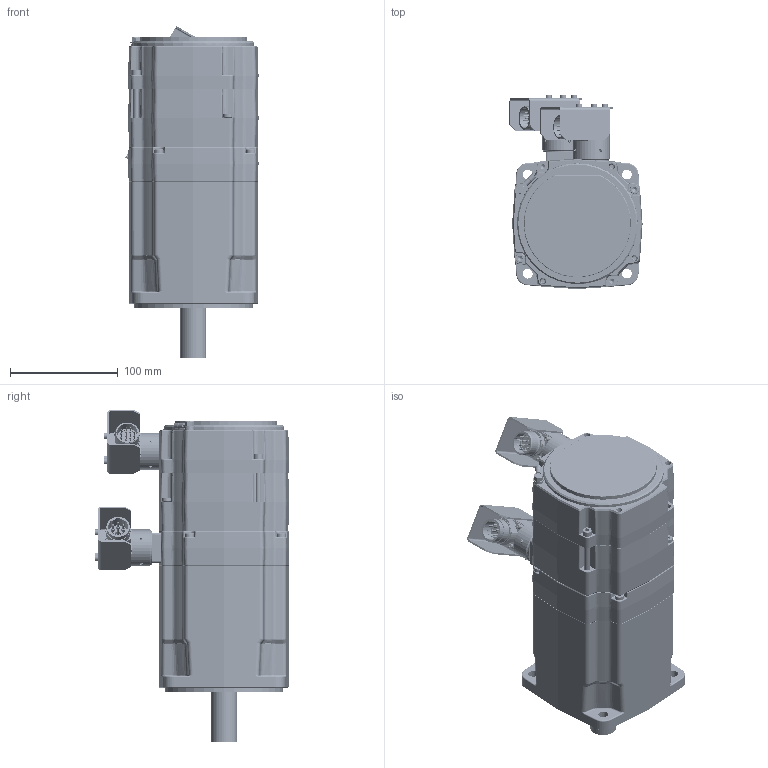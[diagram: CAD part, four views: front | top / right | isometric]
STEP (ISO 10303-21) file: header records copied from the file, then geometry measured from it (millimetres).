
FILE_DESCRIPTION((''),'2;1');
FILE_NAME('EY620EAR7310_ASM','2016-11-14T',('pf73167'),(''),'PRO/ENGINEER BY PARAMETRIC TECHNOLOGY CORPORATION, 2009400','PRO/ENGINEER BY PARAMETRIC TECHNOLOGY CORPORATION, 2009400','');
FILE_SCHEMA(('CONFIG_CONTROL_DESIGN'));
Length unit declared in the file: millimetre
Products named in the file (53): 344187P0020; 5116P1315; 301026P0030; 1150P0412; 344185P0003; 344186R0003_ASM; 5116P1319; 1645P0018; 1711P0019; 344229R2000_ASM; 344183P0006; 344184R2008_ASM; 1143P0515; 1613P0005; 1613P0023; 1317P0304; 5320P0028; 5340P0002; 283154_06_P1CF102_AF0; 283154_06_P1F501_AF0; 283154P0038_ASM; 1821P0017; 1143P0405; 344191P0001; 1613P0034; 1613P0035; 282280P0012; 220005P1002; 344509P0001; 1643P0104; 344191P0021; 1642P0105; 6620P0014; 1145P0508; 1150P0523; 345359P0002; 5340P0124; 5340P0125; 1150P0204; 345359P0001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
Assembly tree (122 placements, depth 4):
  EY620EAR7310_ASM
    344187P0020
    5116P1315
    301026P0030
    1150P0412  x3
    344186R0003_ASM
      344185P0003
    5116P1319
    1645P0018  x2
    1711P0019
    344184R2008_ASM
      344229R2000_ASM
      344183P0006
    1143P0515  x6
    1613P0005  x3
    1613P0023  x2
    1317P0304
    5320P0028
    5340P0002  x3
    283154P0038_ASM
      283154_06_P1CF102_AF0
      283154_06_P1F501_AF0
    1821P0017
    1143P0405  x7
    344191P0001
    1613P0034
    1613P0035
    282280P0012
    220005P1002
    344509P0001
    1643P0104  x3
    344191P0021
    1642P0105
    6620P0014
    1145P0508
    1150P0523  x2
    345359R1010_ASM
      345359P0002
      5340P0124
      5340P0125
      1150P0204  x8
      345359P0001
      1170P0042  x4
      220132P1010_ASM
        220132P1010_0001
        220132P1010_0002
        220132P0111  x4
        220132P0120  x3
      345359P0003
      1150P0305  x3
    345359R1020_ASM
      345359P0002
      5340P0124
      5340P0125
      1150P0204  x8
      345359P0001
      1170P0042  x4
      220132P1020
      220132P0112  x12
      345359P0003
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Bounding box: 123.48 x 180.2 x 308.04 mm (x, y, z)
Volume: 1388059.1 mm3; surface area: 498020.6 mm2
Topology: 120 solids, 121 shells, 6109 faces, 14338 edges, 8706 vertices
Faces by surface type: plane 2158, cylinder 1783, cone 1110, bspline 696, torus 331, sphere 31
Entity records: 158229 total; most frequent: CARTESIAN_POINT 58466, ORIENTED_EDGE 21092, DIRECTION 19641, EDGE_CURVE 10546, AXIS2_PLACEMENT_3D 7175, VERTEX_POINT 6561, VECTOR 5291, LINE 5291
